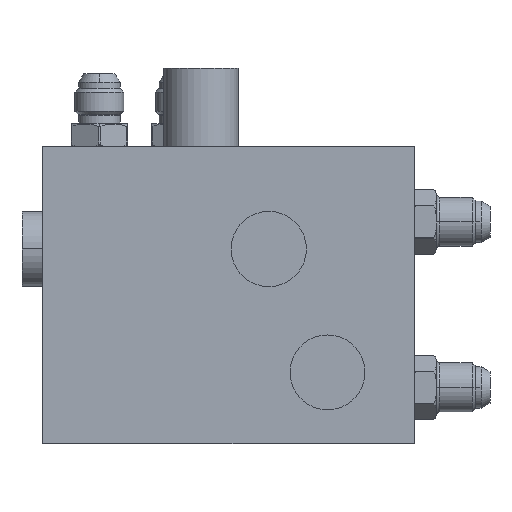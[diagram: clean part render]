
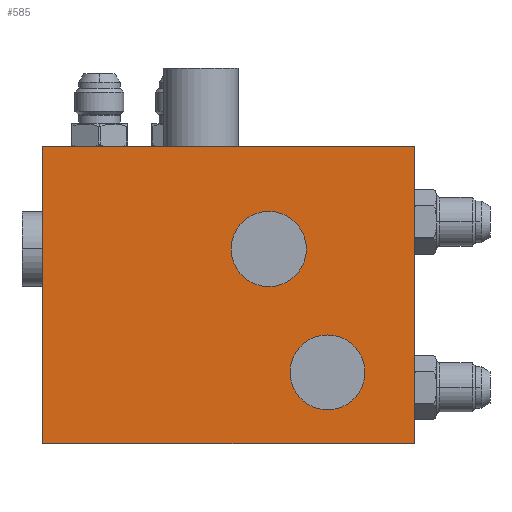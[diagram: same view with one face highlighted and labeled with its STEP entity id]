
A CAD part, front view. The second image highlights one B-rep face of the part: STEP entity #585.
In plain terms, the highlighted free-form (B-spline) face has degree [3, 3] with [4, 4] control points.
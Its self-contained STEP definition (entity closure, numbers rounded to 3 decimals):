
#83=DIRECTION('',(0.,0.,1.));
#84=VECTOR('',#83,100.33);
#85=CARTESIAN_POINT('',(0.,-99.822,-100.33));
#86=LINE('',#85,#84);
#87=DIRECTION('',(-1.,0.,0.));
#88=VECTOR('',#87,125.222);
#89=CARTESIAN_POINT('',(125.222,-99.822,-100.33));
#90=LINE('',#89,#88);
#91=CARTESIAN_POINT('',(96.012,-99.822,-76.2));
#92=DIRECTION('',(0.,1.,0.));
#93=DIRECTION('',(-1.,0.,0.));
#94=AXIS2_PLACEMENT_3D('',#91,#92,#93);
#96=CARTESIAN_POINT('',(96.012,-99.822,-76.2));
#97=DIRECTION('',(0.,1.,0.));
#98=DIRECTION('',(1.,0.,0.));
#99=AXIS2_PLACEMENT_3D('',#96,#97,#98);
#101=CARTESIAN_POINT('',(76.2,-99.822,-34.569));
#102=DIRECTION('',(0.,1.,0.));
#103=DIRECTION('',(-1.,0.,0.));
#104=AXIS2_PLACEMENT_3D('',#101,#102,#103);
#106=CARTESIAN_POINT('',(76.2,-99.822,-34.569));
#107=DIRECTION('',(0.,1.,0.));
#108=DIRECTION('',(1.,0.,0.));
#109=AXIS2_PLACEMENT_3D('',#106,#107,#108);
#119=DIRECTION('',(-1.,0.,0.));
#120=VECTOR('',#119,125.222);
#121=CARTESIAN_POINT('',(125.222,-99.822,0.));
#122=LINE('',#121,#120);
#171=DIRECTION('',(0.,0.,1.));
#172=VECTOR('',#171,100.33);
#173=CARTESIAN_POINT('',(125.222,-99.822,-100.33));
#174=LINE('',#173,#172);
#333=CARTESIAN_POINT('',(0.,-99.822,0.));
#334=VERTEX_POINT('',#333);
#335=CARTESIAN_POINT('',(0.,-99.822,-100.33));
#336=VERTEX_POINT('',#335);
#357=CARTESIAN_POINT('',(125.222,-99.822,-100.33));
#358=VERTEX_POINT('',#357);
#371=CARTESIAN_POINT('',(125.222,-99.822,0.));
#372=VERTEX_POINT('',#371);
#373=CARTESIAN_POINT('',(83.376,-99.822,-76.2));
#374=CARTESIAN_POINT('',(108.649,-99.822,-76.2));
#375=VERTEX_POINT('',#373);
#376=VERTEX_POINT('',#374);
#377=CARTESIAN_POINT('',(63.5,-99.822,-34.569));
#378=CARTESIAN_POINT('',(88.9,-99.822,-34.569));
#379=VERTEX_POINT('',#377);
#380=VERTEX_POINT('',#378);
#548=CARTESIAN_POINT('',(127.726,-99.822,-102.337));
#549=CARTESIAN_POINT('',(84.316,-99.822,-102.337));
#550=CARTESIAN_POINT('',(40.906,-99.822,-102.337));
#551=CARTESIAN_POINT('',(-2.504,-99.822,-102.337));
#552=CARTESIAN_POINT('',(127.726,-99.822,-67.556));
#553=CARTESIAN_POINT('',(84.316,-99.822,-67.556));
#554=CARTESIAN_POINT('',(40.906,-99.822,-67.556));
#555=CARTESIAN_POINT('',(-2.504,-99.822,-67.556));
#556=CARTESIAN_POINT('',(127.726,-99.822,-32.774));
#557=CARTESIAN_POINT('',(84.316,-99.822,-32.774));
#558=CARTESIAN_POINT('',(40.906,-99.822,-32.774));
#559=CARTESIAN_POINT('',(-2.504,-99.822,-32.774));
#560=CARTESIAN_POINT('',(127.726,-99.822,2.007));
#561=CARTESIAN_POINT('',(84.316,-99.822,2.007));
#562=CARTESIAN_POINT('',(40.906,-99.822,2.007));
#563=CARTESIAN_POINT('',(-2.504,-99.822,2.007));
#564=B_SPLINE_SURFACE_WITH_KNOTS('',3,3,((#548,#549,#550,#551),(#552,#553,#554,
#555),(#556,#557,#558,#559),(#560,#561,#562,#563)),.UNSPECIFIED.,.F.,.F.,.F.,(4,
4),(4,4),(-2.007,102.337),(-127.726,2.504),.UNSPECIFIED.);
#565=ORIENTED_EDGE('',*,*,#446,.T.);
#567=ORIENTED_EDGE('',*,*,#566,.F.);
#569=ORIENTED_EDGE('',*,*,#568,.F.);
#570=ORIENTED_EDGE('',*,*,#522,.T.);
#571=EDGE_LOOP('',(#565,#567,#569,#570));
#572=FACE_OUTER_BOUND('',#571,.F.);
#574=ORIENTED_EDGE('',*,*,#573,.F.);
#576=ORIENTED_EDGE('',*,*,#575,.F.);
#577=EDGE_LOOP('',(#574,#576));
#578=FACE_BOUND('',#577,.F.);
#580=ORIENTED_EDGE('',*,*,#579,.F.);
#582=ORIENTED_EDGE('',*,*,#581,.F.);
#583=EDGE_LOOP('',(#580,#582));
#584=FACE_BOUND('',#583,.F.);
#585=ADVANCED_FACE('',(#572,#578,#584),#564,.T.);
#95=CIRCLE('',#94,12.637);
#100=CIRCLE('',#99,12.637);
#105=CIRCLE('',#104,12.7);
#110=CIRCLE('',#109,12.7);
#446=EDGE_CURVE('',#336,#334,#86,.T.);
#522=EDGE_CURVE('',#358,#336,#90,.T.);
#566=EDGE_CURVE('',#372,#334,#122,.T.);
#568=EDGE_CURVE('',#358,#372,#174,.T.);
#573=EDGE_CURVE('',#375,#376,#95,.T.);
#575=EDGE_CURVE('',#376,#375,#100,.T.);
#579=EDGE_CURVE('',#379,#380,#105,.T.);
#581=EDGE_CURVE('',#380,#379,#110,.T.);
